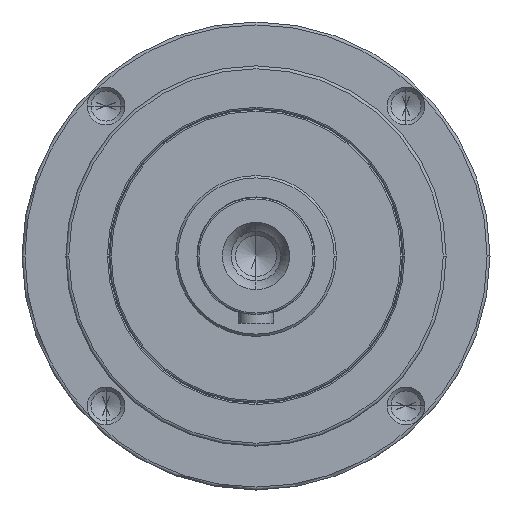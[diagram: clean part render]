
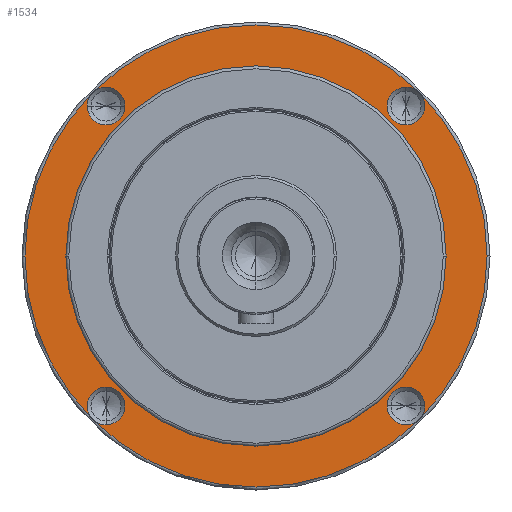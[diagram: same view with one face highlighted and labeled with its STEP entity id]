
A CAD part, left-side view. The second image highlights one B-rep face of the part: STEP entity #1534.
In plain terms, the highlighted planar face has unit normal (-1, 0, 0).
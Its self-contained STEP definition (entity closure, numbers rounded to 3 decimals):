
#295=CARTESIAN_POINT('',(5.,51.265,51.265));
#296=DIRECTION('',(1.,0.,0.));
#297=DIRECTION('',(0.,-1.,0.));
#298=AXIS2_PLACEMENT_3D('',#295,#296,#297);
#300=CARTESIAN_POINT('',(5.,51.265,51.265));
#301=DIRECTION('',(1.,0.,0.));
#302=DIRECTION('',(0.,1.,0.));
#303=AXIS2_PLACEMENT_3D('',#300,#301,#302);
#305=CARTESIAN_POINT('',(5.,51.265,-51.265));
#306=DIRECTION('',(1.,0.,0.));
#307=DIRECTION('',(0.,0.,1.));
#308=AXIS2_PLACEMENT_3D('',#305,#306,#307);
#310=CARTESIAN_POINT('',(5.,51.265,-51.265));
#311=DIRECTION('',(1.,0.,0.));
#312=DIRECTION('',(0.,0.,-1.));
#313=AXIS2_PLACEMENT_3D('',#310,#311,#312);
#315=CARTESIAN_POINT('',(5.,-51.265,-51.265));
#316=DIRECTION('',(1.,0.,0.));
#317=DIRECTION('',(0.,1.,0.));
#318=AXIS2_PLACEMENT_3D('',#315,#316,#317);
#320=CARTESIAN_POINT('',(5.,-51.265,-51.265));
#321=DIRECTION('',(1.,0.,0.));
#322=DIRECTION('',(0.,-1.,0.));
#323=AXIS2_PLACEMENT_3D('',#320,#321,#322);
#325=CARTESIAN_POINT('',(5.,-51.265,51.265));
#326=DIRECTION('',(1.,0.,0.));
#327=DIRECTION('',(0.,0.,-1.));
#328=AXIS2_PLACEMENT_3D('',#325,#326,#327);
#330=CARTESIAN_POINT('',(5.,-51.265,51.265));
#331=DIRECTION('',(1.,0.,0.));
#332=DIRECTION('',(0.,0.,1.));
#333=AXIS2_PLACEMENT_3D('',#330,#331,#332);
#335=CARTESIAN_POINT('',(5.,0.,0.));
#336=DIRECTION('',(-1.,0.,0.));
#337=DIRECTION('',(0.,1.,0.));
#338=AXIS2_PLACEMENT_3D('',#335,#336,#337);
#340=CARTESIAN_POINT('',(5.,0.,0.));
#341=DIRECTION('',(-1.,0.,0.));
#342=DIRECTION('',(0.,-1.,0.));
#343=AXIS2_PLACEMENT_3D('',#340,#341,#342);
#345=CARTESIAN_POINT('',(5.,0.,0.));
#346=DIRECTION('',(1.,0.,0.));
#347=DIRECTION('',(0.,1.,0.));
#348=AXIS2_PLACEMENT_3D('',#345,#346,#347);
#350=CARTESIAN_POINT('',(5.,0.,0.));
#351=DIRECTION('',(1.,0.,0.));
#352=DIRECTION('',(0.,-1.,0.));
#353=AXIS2_PLACEMENT_3D('',#350,#351,#352);
#963=CARTESIAN_POINT('',(5.,44.815,51.265));
#964=CARTESIAN_POINT('',(5.,57.715,51.265));
#965=VERTEX_POINT('',#963);
#966=VERTEX_POINT('',#964);
#967=CARTESIAN_POINT('',(5.,51.265,-44.815));
#968=CARTESIAN_POINT('',(5.,51.265,-57.715));
#969=VERTEX_POINT('',#967);
#970=VERTEX_POINT('',#968);
#971=CARTESIAN_POINT('',(5.,-44.815,-51.265));
#972=CARTESIAN_POINT('',(5.,-57.715,-51.265));
#973=VERTEX_POINT('',#971);
#974=VERTEX_POINT('',#972);
#975=CARTESIAN_POINT('',(5.,-51.265,44.815));
#976=CARTESIAN_POINT('',(5.,-51.265,57.715));
#977=VERTEX_POINT('',#975);
#978=VERTEX_POINT('',#976);
#1063=CARTESIAN_POINT('',(5.,65.,0.));
#1064=CARTESIAN_POINT('',(5.,-65.,0.));
#1065=VERTEX_POINT('',#1063);
#1066=VERTEX_POINT('',#1064);
#1075=CARTESIAN_POINT('',(5.,79.,0.));
#1076=CARTESIAN_POINT('',(5.,-79.,0.));
#1077=VERTEX_POINT('',#1075);
#1078=VERTEX_POINT('',#1076);
#1495=CARTESIAN_POINT('',(5.,0.,0.));
#1496=DIRECTION('',(-1.,0.,0.));
#1497=DIRECTION('',(0.,1.,0.));
#1498=AXIS2_PLACEMENT_3D('',#1495,#1496,#1497);
#1499=PLANE('',#1498);
#1500=ORIENTED_EDGE('',*,*,#1449,.T.);
#1501=ORIENTED_EDGE('',*,*,#1464,.T.);
#1502=EDGE_LOOP('',(#1500,#1501));
#1503=FACE_OUTER_BOUND('',#1502,.F.);
#1505=ORIENTED_EDGE('',*,*,#1504,.F.);
#1507=ORIENTED_EDGE('',*,*,#1506,.F.);
#1508=EDGE_LOOP('',(#1505,#1507));
#1509=FACE_BOUND('',#1508,.F.);
#1511=ORIENTED_EDGE('',*,*,#1510,.F.);
#1513=ORIENTED_EDGE('',*,*,#1512,.F.);
#1514=EDGE_LOOP('',(#1511,#1513));
#1515=FACE_BOUND('',#1514,.F.);
#1517=ORIENTED_EDGE('',*,*,#1516,.F.);
#1519=ORIENTED_EDGE('',*,*,#1518,.F.);
#1520=EDGE_LOOP('',(#1517,#1519));
#1521=FACE_BOUND('',#1520,.F.);
#1523=ORIENTED_EDGE('',*,*,#1522,.F.);
#1525=ORIENTED_EDGE('',*,*,#1524,.F.);
#1526=EDGE_LOOP('',(#1523,#1525));
#1527=FACE_BOUND('',#1526,.F.);
#1529=ORIENTED_EDGE('',*,*,#1528,.T.);
#1531=ORIENTED_EDGE('',*,*,#1530,.T.);
#1532=EDGE_LOOP('',(#1529,#1531));
#1533=FACE_BOUND('',#1532,.F.);
#1534=ADVANCED_FACE('',(#1503,#1509,#1515,#1521,#1527,#1533),#1499,.T.);
#299=CIRCLE('',#298,6.45);
#304=CIRCLE('',#303,6.45);
#309=CIRCLE('',#308,6.45);
#314=CIRCLE('',#313,6.45);
#319=CIRCLE('',#318,6.45);
#324=CIRCLE('',#323,6.45);
#329=CIRCLE('',#328,6.45);
#334=CIRCLE('',#333,6.45);
#339=CIRCLE('',#338,65.);
#344=CIRCLE('',#343,65.);
#349=CIRCLE('',#348,79.);
#354=CIRCLE('',#353,79.);
#1449=EDGE_CURVE('',#1077,#1078,#349,.T.);
#1464=EDGE_CURVE('',#1078,#1077,#354,.T.);
#1504=EDGE_CURVE('',#965,#966,#299,.T.);
#1506=EDGE_CURVE('',#966,#965,#304,.T.);
#1510=EDGE_CURVE('',#969,#970,#309,.T.);
#1512=EDGE_CURVE('',#970,#969,#314,.T.);
#1516=EDGE_CURVE('',#973,#974,#319,.T.);
#1518=EDGE_CURVE('',#974,#973,#324,.T.);
#1522=EDGE_CURVE('',#977,#978,#329,.T.);
#1524=EDGE_CURVE('',#978,#977,#334,.T.);
#1528=EDGE_CURVE('',#1065,#1066,#339,.T.);
#1530=EDGE_CURVE('',#1066,#1065,#344,.T.);
